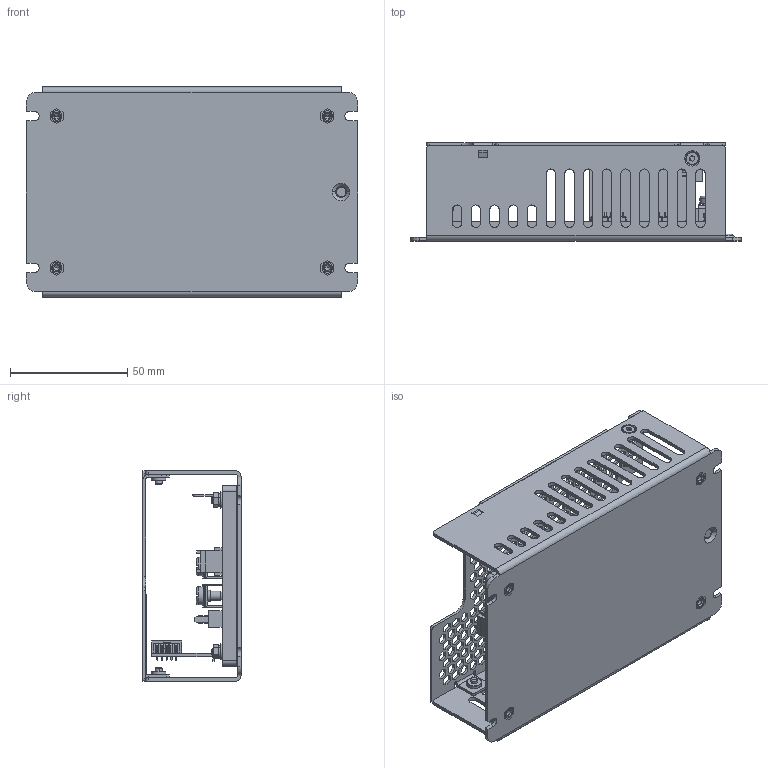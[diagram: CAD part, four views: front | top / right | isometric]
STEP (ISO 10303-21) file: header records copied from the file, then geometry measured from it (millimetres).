
FILE_DESCRIPTION (( 'STEP AP214' ), '1' );
FILE_NAME ('CUS-400M-xxVx-AXy.STEP', '2020-04-16T06:09:00', ( '' ), ( '' ), 'SwSTEP 2.0', 'SolidWorks 2019', '' );
FILE_SCHEMA (( 'AUTOMOTIVE_DESIGN' ));
Length unit declared in the file: millimetre
Products named in the file (35): 250223; 283447; 283191 Tape; 12947; 250297; 220563SMA_SM Removed; M3 90蚓SK TORX SCREW_28393; 220563_No Holes; 23578; 250237_28421; 283717; 283448; 72880; 200268; FLAT WASHERS_32087; 250295; 220563_Connectors Only; 283191; 220665SMA_No Surface Mount; 250242 slot masking; 220665_Connectors Only; M4 X PH COMBI SEMS SCREW_200020; CUS-400M-xxVx-AXy; 200218; 250294 chassis masking; 220665_No Holes; 22-04-1021; 240204; M3 CLINCHNUT_5571R; FULL NUT_200499; 250236; SPLIT WASHERS_20035R
Assembly tree (55 placements, depth 5):
  CUS-400M-xxVx-AXy
    220665_Connectors Only
      220665SMA_No Surface Mount
        220665_No Holes
      200218
      23578
      283717
        250223
        M4 X PH COMBI SEMS SCREW_200020
      283717
        250223
        M4 X PH COMBI SEMS SCREW_200020
      220563_Connectors Only
        220563SMA_SM Removed
          220563_No Holes
        12947
        283448
        283447
      200268
      22-04-1021
    283191
      250295
        250295
        M3 CLINCHNUT_5571R  x2
      283191 Tape
      72880
    240204
    250297
      250297
      250237_28421  x4
      250242 slot masking  x2
      250294 chassis masking  x2
    250236  x4
    FLAT WASHERS_32087  x4
    SPLIT WASHERS_20035R  x4
    FULL NUT_200499  x4
    M3 90蚓SK TORX SCREW_28393  x2
Bounding box: 141.4 x 41.9 x 89.8 mm (x, y, z)
Volume: 73897.4 mm3; surface area: 122156.7 mm2
Topology: 50 solids, 50 shells, 6012 faces, 16282 edges, 10517 vertices
Faces by surface type: plane 4819, cylinder 821, cone 284, torus 74, sphere 8, bspline 6
Entity records: 142036 total; most frequent: CARTESIAN_POINT 24419, ORIENTED_EDGE 22462, DIRECTION 20478, EDGE_CURVE 11231, LINE 9432, VECTOR 9432, VERTEX_POINT 7328, AXIS2_PLACEMENT_3D 5523
